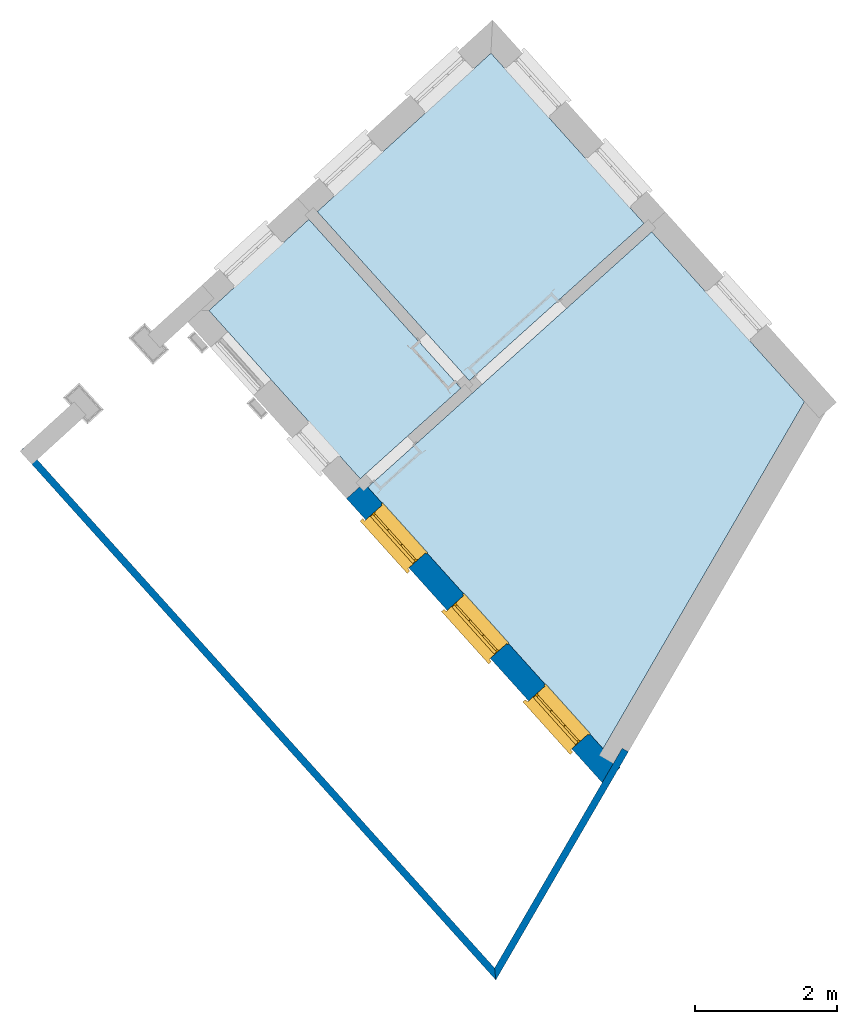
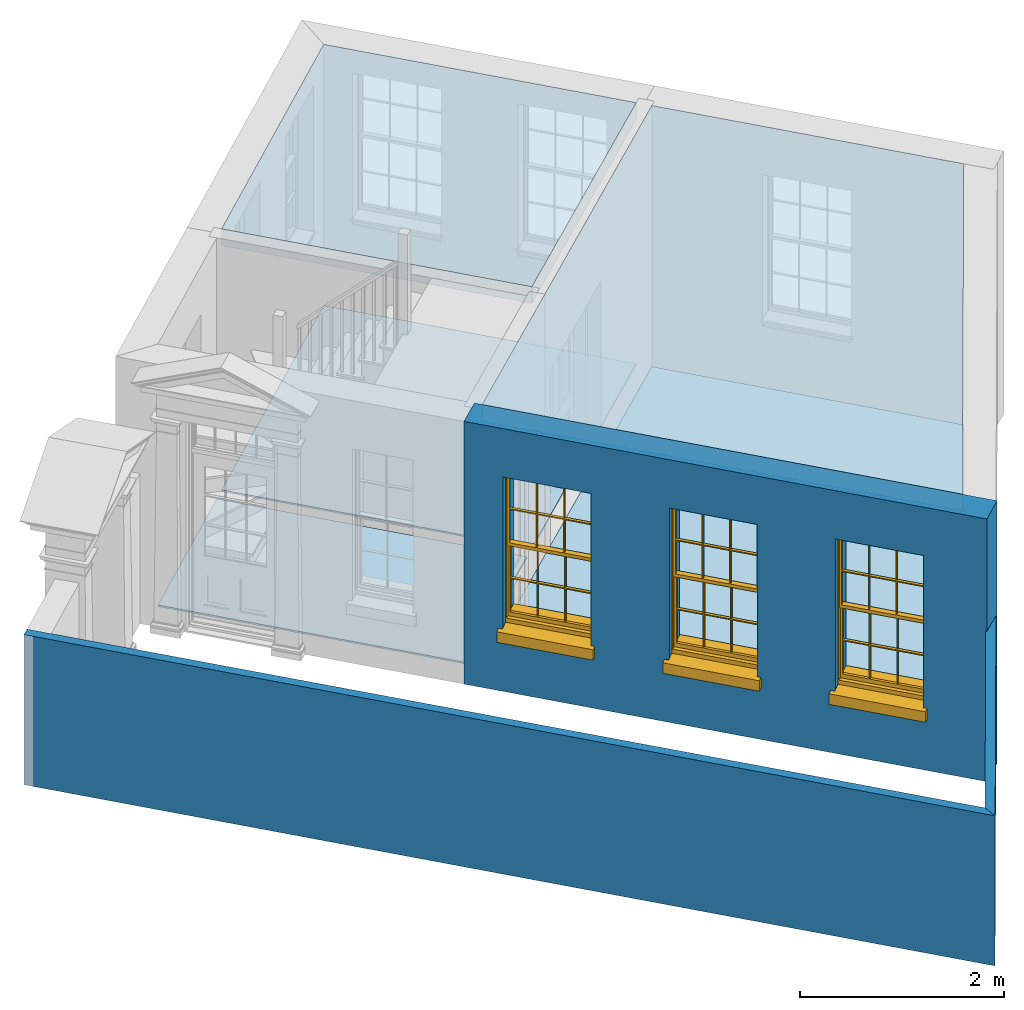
# One storey, part 1 of 7: 5 slabs, 3 walls, 3 windows, 3 openings.
"""IFC4 building model written with IfcOpenShell, lengths in metres."""

from ifc_helpers import new_model, si_unit, frame, origin, origin_with_axes, place, context, subcontext, project, spatial, polyline, outline, extrude, faceted_brep, source, transform, mapped, material, layer, layer_set, layer_usage, type_object, type_shapes, element, fill, save


model = new_model("IFC4")

# Units and contexts
model_context = context("Model", 3, world=origin_with_axes())
body_context = subcontext(model_context, "Body", "Model", "MODEL_VIEW")
ifc_project = project(units=[si_unit("PLANEANGLEUNIT", "RADIAN"), si_unit("MASSUNIT", "GRAM", prefix="KILO"), si_unit("FORCEUNIT", "NEWTON", prefix="KILO"), si_unit("LENGTHUNIT", "METRE"), si_unit("AREAUNIT", "SQUARE_METRE"), si_unit("VOLUMEUNIT", "CUBIC_METRE")], contexts=[model_context, model_context])

# Sites, building, storey
site_1_placement = place(None, origin_with_axes())
site_1 = spatial("IfcSite", under=ifc_project, at=site_1_placement, Name="Tamar")
site_2_placement = place(site_1_placement, origin_with_axes())
site_2 = spatial("IfcSite", under=site_1, at=site_2_placement, Name="Site plot-7", CompositionType="ELEMENT")
building_placement = place(None, origin_with_axes())
building = spatial("IfcBuilding", under=site_2, at=building_placement, Name="Building plot-7", CompositionType="ELEMENT")
storey_placement = place(None, frame((0.0, 0.0, 26.0), z_axis=(0.0, 0.0, 1.0), x_axis=(1.0, 0.0, 0.0)))
storey = spatial("IfcBuildingStorey", under=building, at=storey_placement, Name="plot-7 0", CompositionType="ELEMENT", Elevation=26.0)

# Slabs
slab_1_placement = place(storey_placement, frame((241.718541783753, 284.757150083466, 0.0)))
element("IfcSlab", 1, at=slab_1_placement, inside=storey, Name="My Slab", ObjectType="Slab", PredefinedType="FLOOR", context=body_context, shape_type="SweptSolid", body=[
    extrude(outline(polyline([(0.0, 0.0), (1.41896853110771, 1.27668817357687), (-0.724110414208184, 3.6586022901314), (-2.13398761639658, 2.37180960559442), (0.0, 0.0)])), origin_with_axes(), (0.0, 0.0, 1.0), 0.02),
])
slab_2_placement = place(storey_placement, frame((245.14349583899, 280.950502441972, 2.95)))
element("IfcSlab", 2, at=slab_2_placement, inside=storey, Name="My Slab", ObjectType="Slab", PredefinedType="FLOOR", context=body_context, shape_type="SweptSolid", body=[
    extrude(outline(polyline([(0.0, 0.0), (2.8408302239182, 4.89354594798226), (0.685181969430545, 7.28943015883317), (-3.31793745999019, 3.68770459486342), (0.0, 0.0)])), origin_with_axes(), (0.0, 0.0, 1.0), 0.2),
])
slab_3_placement = place(storey_placement, frame((245.14349583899, 280.950502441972, 0.0)))
element("IfcSlab", 3, at=slab_3_placement, inside=storey, Name="My Slab", ObjectType="Slab", PredefinedType="FLOOR", context=body_context, shape_type="SweptSolid", body=[
    extrude(outline(polyline([(0.0, 0.0), (2.8408302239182, 4.89354594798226), (0.685181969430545, 7.28943015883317), (-3.31793745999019, 3.68770459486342), (0.0, 0.0)])), origin_with_axes(), (0.0, 0.0, 1.0), 0.02),
])
slab_4_placement = place(storey_placement, frame((243.256453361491, 286.14085485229, 2.95)))
element("IfcSlab", 4, at=slab_4_placement, inside=storey, Name="My Slab", ObjectType="Slab", PredefinedType="FLOOR", context=body_context, shape_type="SweptSolid", body=[
    extrude(outline(polyline([(0.0, 0.0), (2.46520785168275, 2.21802079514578), (0.30557225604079, 4.61833671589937), (-2.14384101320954, 2.3827611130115), (0.0, 0.0)])), origin_with_axes(), (0.0, 0.0, 1.0), 0.2),
])
slab_5_placement = place(storey_placement, frame((243.256453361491, 286.14085485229, 0.0)))
element("IfcSlab", 5, at=slab_5_placement, inside=storey, Name="My Slab", ObjectType="Slab", PredefinedType="FLOOR", context=body_context, shape_type="SweptSolid", body=[
    extrude(outline(polyline([(0.0, 0.0), (2.46520785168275, 2.21802079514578), (0.30557225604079, 4.61833671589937), (-2.14384101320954, 2.3827611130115), (0.0, 0.0)])), origin_with_axes(), (0.0, 0.0, 1.0), 0.02),
])

# Wall, openings, windows
ifc_material_1 = material(Name="Masonry")
ifc_layer_1 = layer(ifc_material_1, 0.33, ventilated=False)
ifc_layer_set_1 = layer_set([ifc_layer_1], Name="exterior_0.08_0.25")
ifc_layer_usage_1 = layer_usage(ifc_layer_set_1, "AXIS2", "POSITIVE", -0.25)
wall_type_1 = type_object("IfcWallType", Name="exterior_0.08_0.25", PredefinedType="SOLIDWALL", material=ifc_layer_set_1)
wall_1_placement = place(storey_placement, frame((241.712578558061, 284.644170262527, 0.0), z_axis=(0.0, 0.0, 1.0), x_axis=(0.66885372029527, -0.743394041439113, 0.0)))
wall_1 = element("IfcWall", 6, at=wall_1_placement, inside=storey, type_object=wall_type_1, material=ifc_layer_usage_1, Name="exterior", context=body_context, shape_type="SweptSolid", body=[
    extrude(outline(polyline([(-1.40638475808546e-14, 0.080000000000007), (3.03741866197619e-14, -0.250000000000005), (5.40051106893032, -0.250000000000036), (5.40051106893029, 0.0799999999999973), (-1.40638475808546e-14, 0.080000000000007)])), origin_with_axes(), (0.0, 0.0, 1.0), 3.15),
])
opening_1_placement = place(wall_1_placement, frame((0.40341851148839, 0.0, 0.75)))
opening_1 = element("IfcOpeningElement", 7, at=opening_1_placement, cuts=wall_1, Name="My Opening", ObjectType="Opening", context=body_context, shape_type="SweptSolid", body=[
    extrude(outline(polyline([(0.0, -0.269999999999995), (0.909999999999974, -0.269999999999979), (0.909999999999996, 1.09999999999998), (2.18713935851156e-14, 1.09999999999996), (0.0, -0.269999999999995)])), origin_with_axes(), (0.0, 0.0, 1.0), 1.82),
])
opening_2_placement = place(wall_1_placement, frame((2.12025553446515, 0.0, 0.75)))
opening_2 = element("IfcOpeningElement", 8, at=opening_2_placement, cuts=wall_1, Name="My Opening", ObjectType="Opening", context=body_context, shape_type="SweptSolid", body=[
    extrude(outline(polyline([(0.0, -0.270000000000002), (0.909999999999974, -0.269999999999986), (0.909999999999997, 1.09999999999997), (2.17603712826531e-14, 1.09999999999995), (0.0, -0.270000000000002)])), origin_with_axes(), (0.0, 0.0, 1.0), 1.82),
])
opening_3_placement = place(wall_1_placement, frame((3.83709255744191, 0.0, 0.75)))
opening_3 = element("IfcOpeningElement", 9, at=opening_3_placement, cuts=wall_1, Name="My Opening", ObjectType="Opening", context=body_context, shape_type="SweptSolid", body=[
    extrude(outline(polyline([(0.0, -0.270000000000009), (0.909999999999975, -0.269999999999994), (0.909999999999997, 1.09999999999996), (2.1316282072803e-14, 1.09999999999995), (0.0, -0.270000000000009)])), origin_with_axes(), (0.0, 0.0, 1.0), 1.82),
])
window_type = type_object("IfcWindowType", Name="sash_big", PartitioningType="DOUBLE_PANEL_HORIZONTAL", PredefinedType="NOTDEFINED")
shared_shape = source(origin(), body_context, "Body", "Brep", [
    faceted_brep([(0.033125, 0.145, 0.975209), (0.01, 0.145, 0.975209), (0.033125, 0.145, 1.376042), (0.876875, 0.145, 0.975209), (0.876875, 0.145, 1.376042), (0.9, 0.145, 0.975209), (0.876875, 0.145, 1.386042), (0.876875, 0.145, 1.786875), (0.9, 0.145, 1.81), (0.033125, 0.145, 1.786875), (0.033125, 0.145, 1.386042), (0.01, 0.145, 1.81), (0.876875, 0.115, 1.376042), (0.876875, 0.115, 0.975209), (0.9, 0.115, 0.937083), (0.033125, 0.115, 1.786875), (0.01, 0.115, 1.81), (0.033125, 0.115, 1.386042), (0.01, 0.115, 0.937083), (0.033125, 0.115, 0.975209), (0.033125, 0.115, 1.376042), (0.876875, 0.115, 1.786875), (0.876875, 0.115, 1.386042), (0.9, 0.115, 1.81), (0.033125, 0.145, 0.937083), (0.01, 0.145, 0.937083), (0.033125, 0.145, 0.53625), (0.876875, 0.145, 0.937083), (0.876875, 0.145, 0.53625), (0.9, 0.145, 0.937083), (0.876875, 0.145, 0.52625), (0.876875, 0.145, 0.125417), (0.9, 0.145, 0.077167), (0.033125, 0.145, 0.125417), (0.033125, 0.145, 0.52625), (0.01, 0.145, 0.077167), (-0.0425, 0.0, 0.01), (-0.0425, -0.05, 0.001667), (0.0, 0.0, 0.01), (0.9525, 0.0, 0.01), (0.91, 0.0, 0.01), (0.9525, -0.05, 0.001667), (-0.02, 0.33, 0.077167), (0.0, 0.33, 0.077167), (-0.02, 0.36, 0.077167), (0.0, 0.19, 0.077167), (0.01, 0.19, 0.077167), (0.91, 0.19, 0.077167), (0.91, 0.33, 0.077167), (0.9, 0.19, 0.077167), (0.93, 0.33, 0.077167), (0.93, 0.36, 0.077167), (0.01, 0.175, 0.975209), (0.9, 0.175, 0.975209), (0.876875, 0.175, 0.125417), (0.876875, 0.175, 0.52625), (0.9, 0.175, 0.077167), (0.876875, 0.175, 0.53625), (0.876875, 0.175, 0.937083), (0.033125, 0.175, 0.125417), (0.01, 0.175, 0.077167), (0.033125, 0.175, 0.52625), (0.033125, 0.175, 0.937083), (0.033125, 0.175, 0.53625), (-0.02, 0.33, 0.052167), (-0.02, 0.36, 0.052167), (0.93, 0.36, 0.052167), (0.93, 0.33, 0.052167), (0.91, 0.33, 0.052167), (0.0, 0.33, 0.052167), (0.91, 0.1, 0.026667), (0.0, 0.1, 0.026667), (-0.0425, -0.05, -0.123333), (0.9525, -0.05, -0.123333), (-0.0425, 0.0, -0.123333), (0.9525, 0.0, -0.123333), (0.01, 0.19, 1.81), (0.9, 0.19, 1.81), (0.0, 0.19, 1.82), (0.91, 0.19, 1.82), (0.01, 0.1, 0.077167), (0.9, 0.1, 0.077167), (0.592292, 0.145, 0.125417), (0.592292, 0.175, 0.125417), (0.317708, 0.175, 0.125417), (0.317708, 0.145, 0.125417), (0.592292, 0.145, 0.53625), (0.317708, 0.145, 0.53625), (0.317708, 0.145, 0.52625), (0.592292, 0.145, 0.52625), (0.592292, 0.175, 0.53625), (0.317708, 0.175, 0.53625), (0.592292, 0.115, 1.386042), (0.592292, 0.145, 1.386042), (0.317708, 0.145, 1.386042), (0.317708, 0.115, 1.386042), (0.317708, 0.115, 1.376042), (0.592292, 0.115, 1.376042), (0.317708, 0.145, 1.376042), (0.592292, 0.145, 1.376042), (0.602292, 0.115, 1.376042), (0.592292, 0.115, 0.975209), (0.602292, 0.115, 0.975209), (0.602292, 0.145, 0.975209), (0.592292, 0.145, 0.975209), (0.602292, 0.145, 1.376042), (0.602292, 0.175, 0.53625), (0.602292, 0.145, 0.53625), (0.317708, 0.175, 0.52625), (0.307708, 0.175, 0.125417), (0.307708, 0.175, 0.52625), (0.602292, 0.175, 0.52625), (0.602292, 0.175, 0.125417), (0.592292, 0.175, 0.52625), (0.307708, 0.175, 0.53625), (0.317708, 0.175, 0.937083), (0.307708, 0.175, 0.937083), (0.602292, 0.175, 0.937083), (0.592292, 0.175, 0.937083), (0.307708, 0.145, 0.52625), (0.307708, 0.145, 0.125417), (0.307708, 0.145, 0.53625), (0.307708, 0.145, 0.937083), (0.592292, 0.145, 0.937083), (0.317708, 0.145, 0.937083), (0.602292, 0.145, 0.937083), (0.602292, 0.145, 0.52625), (0.602292, 0.145, 0.125417), (0.307708, 0.115, 1.386042), (0.307708, 0.115, 1.376042), (0.307708, 0.115, 0.975209), (0.317708, 0.115, 0.975209), (0.317708, 0.115, 1.786875), (0.307708, 0.115, 1.786875), (0.602292, 0.115, 1.786875), (0.592292, 0.115, 1.786875), (0.602292, 0.115, 1.386042), (0.602292, 0.145, 1.386042), (0.307708, 0.145, 1.386042), (0.307708, 0.145, 1.786875), (0.317708, 0.145, 1.786875), (0.592292, 0.145, 1.786875), (0.602292, 0.145, 1.786875), (0.307708, 0.145, 1.376042), (0.317708, 0.145, 0.975209), (0.307708, 0.145, 0.975209), (0.91, 0.1, 1.82), (0.9, 0.1, 1.81), (0.01, 0.1, 1.81), (0.0, 0.1, 1.82), (0.91, 0.0, 0.0), (0.0, 0.0, 0.0), (0.91, 0.33, 0.0), (0.0, 0.33, 0.0)], [[[0, 1, 2]], [[3, 4, 5]], [[6, 7, 8]], [[9, 10, 11]], [[12, 13, 14]], [[15, 16, 17]], [[18, 19, 20]], [[21, 22, 23]], [[24, 25, 26]], [[27, 28, 29]], [[30, 31, 32]], [[33, 34, 35]], [[14, 27, 29]], [[25, 24, 18]], [[36, 37, 38]], [[39, 40, 41]], [[42, 43, 44]], [[45, 46, 43]], [[47, 48, 49]], [[50, 51, 48]], [[1, 0, 52]], [[5, 53, 3]], [[54, 55, 56]], [[57, 58, 53]], [[59, 60, 61]], [[62, 63, 52]], [[48, 43, 46, 49]], [[51, 44, 43, 48]], [[64, 42, 44, 65]], [[65, 44, 51, 66]], [[66, 51, 50, 67]], [[65, 66, 68, 69]], [[60, 56, 49, 46]], [[70, 71, 38, 40]], [[37, 41, 40, 38]], [[37, 72, 73, 41]], [[74, 75, 73, 72]], [[8, 11, 76, 77]], [[76, 78, 79, 77]], [[32, 35, 80, 81]], [[81, 80, 71, 70]], [[82, 83, 84, 85]], [[86, 87, 88, 89]], [[86, 90, 91, 87]], [[92, 93, 94, 95]], [[92, 95, 96, 97]], [[96, 98, 99, 97]], [[100, 97, 101, 102]], [[103, 104, 99, 105]], [[97, 99, 104, 101]], [[102, 103, 105, 100]], [[28, 57, 106, 107]], [[108, 84, 109, 110]], [[111, 112, 83, 113]], [[114, 110, 61, 63]], [[90, 113, 108, 91]], [[115, 91, 114, 116]], [[117, 106, 90, 118]], [[111, 106, 57, 55]], [[119, 110, 109, 120]], [[34, 61, 110, 119]], [[89, 113, 83, 82]], [[88, 108, 113, 89]], [[85, 84, 108, 88]], [[121, 114, 63, 26]], [[122, 116, 114, 121]], [[123, 118, 90, 86]], [[87, 91, 115, 124]], [[107, 106, 117, 125]], [[126, 111, 55, 30]], [[127, 112, 111, 126]], [[126, 30, 28, 107]], [[88, 119, 120, 85]], [[126, 89, 82, 127]], [[125, 123, 86, 107]], [[121, 26, 34, 119]], [[124, 122, 121, 87]], [[128, 17, 20, 129]], [[96, 129, 130, 131]], [[132, 133, 128, 95]], [[134, 135, 92, 136]], [[100, 12, 22, 136]], [[137, 6, 4, 105]], [[94, 138, 139, 140]], [[137, 93, 141, 142]], [[99, 98, 94, 93]], [[143, 2, 10, 138]], [[144, 145, 143, 98]], [[129, 143, 145, 130]], [[20, 2, 143, 129]], [[131, 144, 98, 96]], [[128, 138, 10, 17]], [[133, 139, 138, 128]], [[135, 141, 93, 92]], [[95, 94, 140, 132]], [[22, 6, 137, 136]], [[136, 137, 142, 134]], [[100, 105, 4, 12]], [[107, 86, 89, 126]], [[106, 111, 113, 90]], [[91, 108, 110, 114]], [[87, 121, 119, 88]], [[97, 100, 136, 92]], [[129, 96, 95, 128]], [[98, 143, 138, 94]], [[105, 99, 93, 137]], [[131, 101, 104, 144]], [[124, 115, 118, 123]], [[132, 140, 141, 135]], [[120, 109, 59, 33]], [[15, 9, 139, 133]], [[134, 142, 7, 21]], [[31, 54, 112, 127]], [[36, 74, 72, 37]], [[39, 41, 73, 75]], [[18, 14, 101, 131]], [[23, 16, 132, 135]], [[83, 56, 60, 84]], [[52, 53, 118, 115]], [[53, 52, 144, 104]], [[11, 8, 141, 140]], [[14, 18, 124, 123]], [[2, 1, 11, 10]], [[8, 5, 4, 6]], [[57, 53, 56, 55]], [[60, 52, 63, 61]], [[26, 25, 35, 34]], [[32, 29, 28, 30]], [[14, 23, 22, 12]], [[18, 20, 17, 16]], [[19, 0, 2, 20]], [[17, 10, 9, 15]], [[12, 4, 3, 13]], [[21, 7, 6, 22]], [[27, 58, 57, 28]], [[30, 55, 54, 31]], [[33, 59, 61, 34]], [[26, 63, 62, 24]], [[5, 8, 77, 53]], [[76, 11, 1, 52]], [[46, 45, 78, 76]], [[49, 77, 79, 47]], [[70, 146, 147, 81]], [[71, 80, 148, 149]], [[19, 130, 145, 0]], [[102, 13, 3, 103]], [[116, 122, 24, 62]], [[29, 32, 81, 14]], [[80, 35, 25, 18]], [[60, 46, 76, 52]], [[77, 49, 56, 53]], [[23, 14, 81, 147]], [[16, 148, 80, 18]], [[35, 85, 120]], [[120, 33, 35]], [[127, 82, 32]], [[32, 31, 127]], [[32, 82, 85, 35]], [[102, 101, 14]], [[14, 13, 102]], [[18, 131, 130]], [[130, 19, 18]], [[134, 21, 23]], [[23, 135, 134]], [[16, 15, 133]], [[133, 132, 16]], [[11, 140, 139]], [[139, 9, 11]], [[142, 141, 8]], [[8, 7, 142]], [[23, 147, 148, 16]], [[146, 149, 148, 147]], [[52, 115, 116]], [[116, 62, 52]], [[118, 53, 117]], [[58, 117, 53]], [[27, 125, 117, 58]], [[56, 83, 112]], [[112, 54, 56]], [[109, 84, 60]], [[60, 59, 109]], [[125, 27, 14]], [[14, 123, 125]], [[122, 124, 18]], [[18, 24, 122]], [[145, 144, 52]], [[52, 0, 145]], [[103, 3, 53]], [[53, 104, 103]], [[79, 78, 149, 146]], [[78, 45, 71, 149]], [[146, 70, 47, 79]], [[150, 75, 74, 151]], [[68, 66, 67]], [[48, 68, 67, 50]], [[69, 64, 65]], [[42, 64, 69, 43]], [[69, 68, 152, 153]], [[70, 68, 48, 47]], [[150, 152, 68, 70]], [[43, 69, 71, 45]], [[69, 153, 151, 71]], [[152, 150, 151, 153]], [[38, 151, 74, 36]], [[71, 151, 38]], [[39, 75, 150, 40]], [[40, 150, 70]]]),
])
type_shapes(window_type, [shared_shape])
window_1_placement = place(storey_placement, frame((241.781690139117, 284.163680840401, 0.75), z_axis=(0.0, 0.0, 1.0), x_axis=(0.60865688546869, -0.676488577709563, 0.0)))
window_1 = element("IfcWindow", 10, at=window_1_placement, inside=storey, type_object=window_type, Name="living outside window", OverallHeight=1.82, OverallWidth=0.91, context=body_context, shape_type="MappedRepresentation", body=[
    mapped(shared_shape, transform((0.0, 0.0, 0.0), scale=1.0)),
])
fill(opening_1, window_1)
window_2_placement = place(storey_placement, frame((242.930002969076, 282.887394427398, 0.75), z_axis=(0.0, 0.0, 1.0), x_axis=(0.60865688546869, -0.676488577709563, 0.0)))
window_2 = element("IfcWindow", 11, at=window_2_placement, inside=storey, type_object=window_type, Name="living outside window", OverallHeight=1.82, OverallWidth=0.91, context=body_context, shape_type="MappedRepresentation", body=[
    mapped(shared_shape, transform((0.0, 0.0, 0.0), scale=1.0)),
])
fill(opening_2, window_2)
window_3_placement = place(storey_placement, frame((244.078315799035, 281.611108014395, 0.75), z_axis=(0.0, 0.0, 1.0), x_axis=(0.60865688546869, -0.676488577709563, 0.0)))
window_3 = element("IfcWindow", 12, at=window_3_placement, inside=storey, type_object=window_type, Name="living outside window", OverallHeight=1.82, OverallWidth=0.91, context=body_context, shape_type="MappedRepresentation", body=[
    mapped(shared_shape, transform((0.0, 0.0, 0.0), scale=1.0)),
])
fill(opening_3, window_3)

# Walls
ifc_material_2 = material(Name="Masonry")
ifc_layer_2 = layer(ifc_material_2, 0.1, ventilated=False)
ifc_layer_set_2 = layer_set([ifc_layer_2], Name="fence_-0.15_0.25")
ifc_layer_usage_2 = layer_usage(ifc_layer_set_2, "AXIS2", "POSITIVE", -0.25)
wall_type_2 = type_object("IfcWallType", Name="fence_-0.15_0.25", PredefinedType="SOLIDWALL", material=ifc_layer_set_2)
wall_2_placement = place(storey_placement, frame((237.273596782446, 285.128063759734, 0.0), z_axis=(0.0, 0.0, 1.0), x_axis=(0.668853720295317, -0.74339404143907, 0.0)))
element("IfcWall", 13, at=wall_2_placement, inside=storey, type_object=wall_type_2, material=ifc_layer_usage_2, Name="fence", context=body_context, shape_type="SweptSolid", body=[
    extrude(outline(polyline([(-0.250000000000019, -0.149999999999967), (-0.249999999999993, -0.24999999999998), (9.78308369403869, -0.25000000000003), (9.64573540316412, -0.149999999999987), (-0.250000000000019, -0.149999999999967)])), origin_with_axes(), (0.0, 0.0, 1.0), 1.8),
])
wall_3_placement = place(storey_placement, frame((243.587383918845, 278.110637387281, 0.0), z_axis=(0.0, 0.0, 1.0), x_axis=(0.502058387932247, 0.864833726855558, 0.0)))
element("IfcWall", 14, at=wall_3_placement, inside=storey, type_object=wall_type_2, material=ifc_layer_usage_2, Name="fence", context=body_context, shape_type="SweptSolid", body=[
    extrude(outline(polyline([(-0.206022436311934, -0.150000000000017), (-0.343370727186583, -0.249999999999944), (3.37739148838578, -0.250000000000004), (3.37739148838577, -0.150000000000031), (-0.206022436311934, -0.150000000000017)])), origin_with_axes(), (0.0, 0.0, 1.0), 1.8),
])

save(model, "model.ifc")
